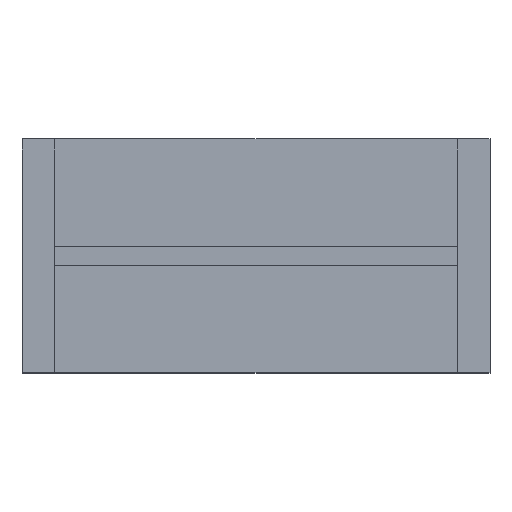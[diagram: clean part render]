
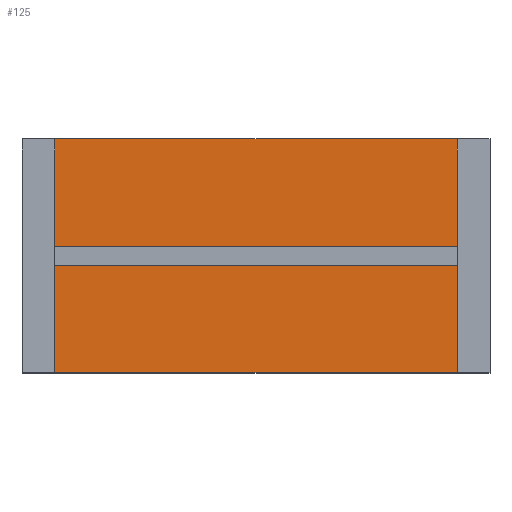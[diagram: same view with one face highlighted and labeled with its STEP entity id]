
A CAD part, top view. The second image highlights one B-rep face of the part: STEP entity #125.
In plain terms, the highlighted planar face has unit normal (0, 0, 1).
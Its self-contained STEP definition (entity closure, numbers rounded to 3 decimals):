
#125=ADVANCED_FACE('',(#406),#408,.T.);
#406=FACE_BOUND('',#407,.T.);
#407=EDGE_LOOP('',(#789,#790,#791,#792));
#408=PLANE('',#409);
#409=AXIS2_PLACEMENT_3D('',#410,#411,#412);
#410=CARTESIAN_POINT('',(0.,0.,0.45));
#411=DIRECTION('',(0.,0.,1.));
#412=DIRECTION('',(-1.,0.,0.));
#789=ORIENTED_EDGE('',*,*,#1056,.T.);
#790=ORIENTED_EDGE('',*,*,#1060,.T.);
#791=ORIENTED_EDGE('',*,*,#1063,.T.);
#792=ORIENTED_EDGE('',*,*,#1065,.T.);
#1056=EDGE_CURVE('',#1233,#1231,#1234,.T.);
#1060=EDGE_CURVE('',#1231,#1238,#1240,.T.);
#1063=EDGE_CURVE('',#1238,#1243,#1245,.T.);
#1065=EDGE_CURVE('',#1243,#1233,#1247,.T.);
#1231=VERTEX_POINT('',#1404);
#1233=VERTEX_POINT('',#1408);
#1234=LINE('',#1409,#1410);
#1238=VERTEX_POINT('',#1419);
#1240=LINE('',#1423,#1424);
#1243=VERTEX_POINT('',#1430);
#1245=LINE('',#1434,#1435);
#1247=LINE('',#1440,#1441);
#1404=CARTESIAN_POINT('',(-2.45,-1.25,0.45));
#1408=CARTESIAN_POINT('',(-2.45,1.25,0.45));
#1409=CARTESIAN_POINT('',(-2.45,1.25,0.45));
#1410=VECTOR('',#1411,1.);
#1411=DIRECTION('',(0.,-1.,0.));
#1419=CARTESIAN_POINT('',(2.45,-1.25,0.45));
#1423=CARTESIAN_POINT('',(-2.45,-1.25,0.45));
#1424=VECTOR('',#1425,1.);
#1425=DIRECTION('',(1.,0.,0.));
#1430=CARTESIAN_POINT('',(2.45,1.25,0.45));
#1434=CARTESIAN_POINT('',(2.45,-1.25,0.45));
#1435=VECTOR('',#1436,1.);
#1436=DIRECTION('',(0.,1.,0.));
#1440=CARTESIAN_POINT('',(2.45,1.25,0.45));
#1441=VECTOR('',#1442,1.);
#1442=DIRECTION('',(-1.,0.,0.));
